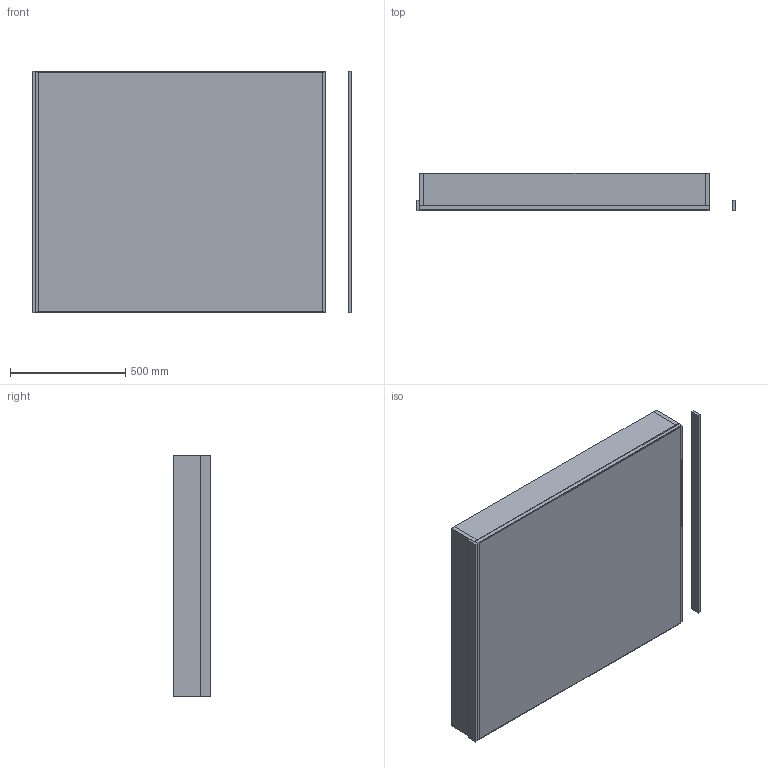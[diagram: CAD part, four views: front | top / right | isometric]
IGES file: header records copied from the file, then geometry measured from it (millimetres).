
Start section: Data from Parasolid IGES Translator 19.0.9, Copyright(c) 2006 Siemens PL M Software. All Rights Reserved.
Global section: file name: noorth-mirror-H 105 D 4,5-16 W 126_9161.igs; native system: By Siemens PLM Incorporated; preprocessor: XPlus GENERIC/IGES 19.0.9; author: Noname; organization: Noname; date: 20200519.114420; units: metre
Bounding box: 1383.82 x 162 x 1050 mm (x, y, z)
Volume: 42900729.9 mm3; surface area: 9634069 mm2
Topology: 10 solids, 10 shells, 84 faces, 168 edges, 104 vertices
Faces by surface type: plane 84
